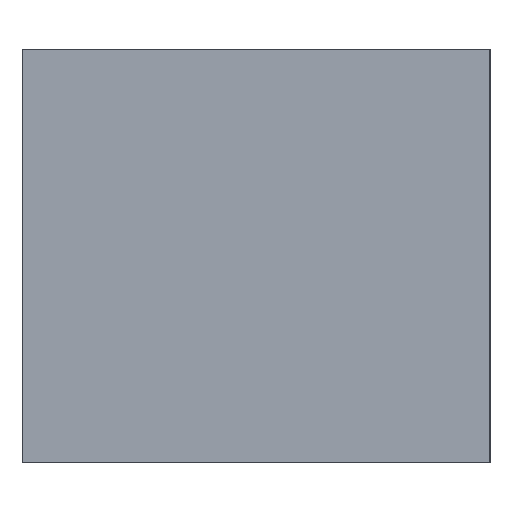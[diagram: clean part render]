
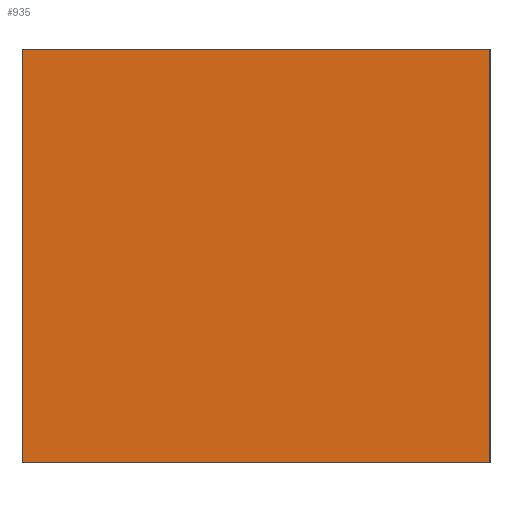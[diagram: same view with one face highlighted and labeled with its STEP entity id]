
A CAD part, left-side view. The second image highlights one B-rep face of the part: STEP entity #935.
In plain terms, the highlighted planar face has unit normal (-1, 0, 0).
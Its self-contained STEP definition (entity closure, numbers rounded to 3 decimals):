
#22=DIRECTION('',(0.,0.,-1.));
#23=VECTOR('',#22,68.);
#24=CARTESIAN_POINT('',(-56.,-38.5,0.));
#25=LINE('',#24,#23);
#226=DIRECTION('',(0.,0.,-1.));
#227=VECTOR('',#226,68.);
#228=CARTESIAN_POINT('',(-56.,38.5,0.));
#229=LINE('',#228,#227);
#248=DIRECTION('',(0.,1.,0.));
#249=VECTOR('',#248,77.);
#250=CARTESIAN_POINT('',(-56.,-38.5,-68.));
#251=LINE('',#250,#249);
#268=DIRECTION('',(0.,-1.,0.));
#269=VECTOR('',#268,77.);
#270=CARTESIAN_POINT('',(-56.,38.5,0.));
#271=LINE('',#270,#269);
#450=CARTESIAN_POINT('',(-56.,-38.5,0.));
#451=VERTEX_POINT('',#450);
#452=CARTESIAN_POINT('',(-56.,-38.5,-68.));
#453=VERTEX_POINT('',#452);
#454=CARTESIAN_POINT('',(-56.,38.5,0.));
#455=CARTESIAN_POINT('',(-56.,38.5,-68.));
#456=VERTEX_POINT('',#454);
#457=VERTEX_POINT('',#455);
#922=CARTESIAN_POINT('',(-56.,0.,-68.));
#923=DIRECTION('',(-1.,0.,0.));
#924=DIRECTION('',(0.,0.,1.));
#925=AXIS2_PLACEMENT_3D('',#922,#923,#924);
#926=PLANE('',#925);
#927=ORIENTED_EDGE('',*,*,#583,.T.);
#929=ORIENTED_EDGE('',*,*,#928,.T.);
#930=ORIENTED_EDGE('',*,*,#679,.F.);
#932=ORIENTED_EDGE('',*,*,#931,.T.);
#933=EDGE_LOOP('',(#927,#929,#930,#932));
#934=FACE_OUTER_BOUND('',#933,.F.);
#583=EDGE_CURVE('',#451,#453,#25,.T.);
#679=EDGE_CURVE('',#456,#457,#229,.T.);
#928=EDGE_CURVE('',#453,#457,#251,.T.);
#931=EDGE_CURVE('',#456,#451,#271,.T.);
#935=ADVANCED_FACE('',(#934),#926,.T.);
